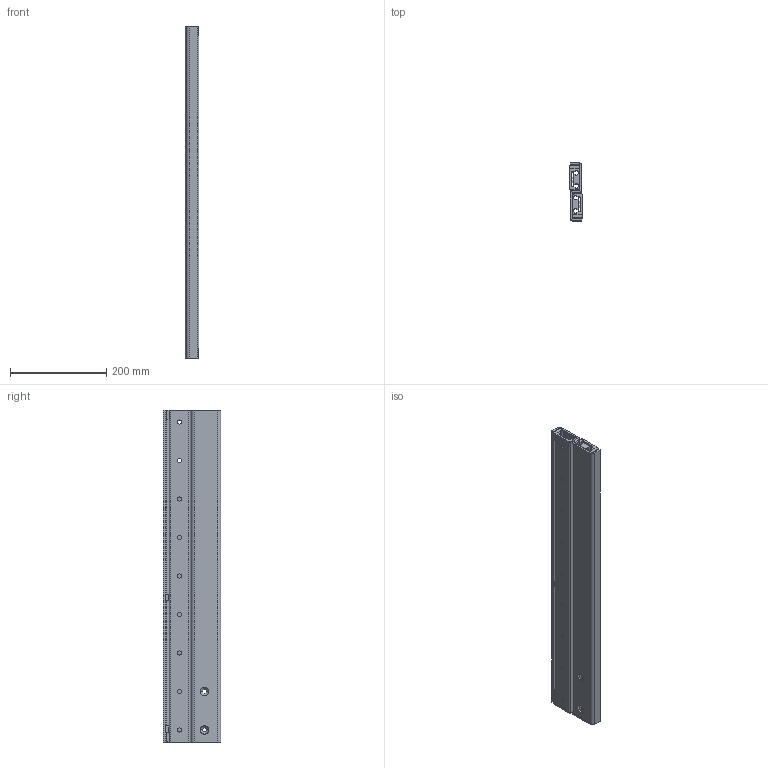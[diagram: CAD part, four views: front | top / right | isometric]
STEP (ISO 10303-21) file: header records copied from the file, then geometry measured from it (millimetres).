
FILE_DESCRIPTION(('STEP AP214'),'1');
FILE_NAME('rail_dss43-690_00.stp','2017-04-17T04:01:00',('TraceParts'),('TraceParts S.A.'),'Spatial InterOp 3D',' ',' ');
FILE_SCHEMA(('automotive_design'));
Length unit declared in the file: millimetre
Products named in the file (3): rail_dss43-690_00_1; rail_dss43-690_00_2; rail_dss43-690_00_3
Bounding box: 28 x 120 x 690 mm (x, y, z)
Volume: 1239177.4 mm3; surface area: 497564.3 mm2
Topology: 3 solids, 3 shells, 270 faces, 726 edges, 472 vertices
Faces by surface type: plane 138, cylinder 96, cone 36
Entity records: 8599 total; most frequent: DIRECTION 1516, CARTESIAN_POINT 1471, ORIENTED_EDGE 1452, EDGE_CURVE 726, AXIS2_PLACEMENT_3D 517, LINE 482, VECTOR 482, VERTEX_POINT 472
